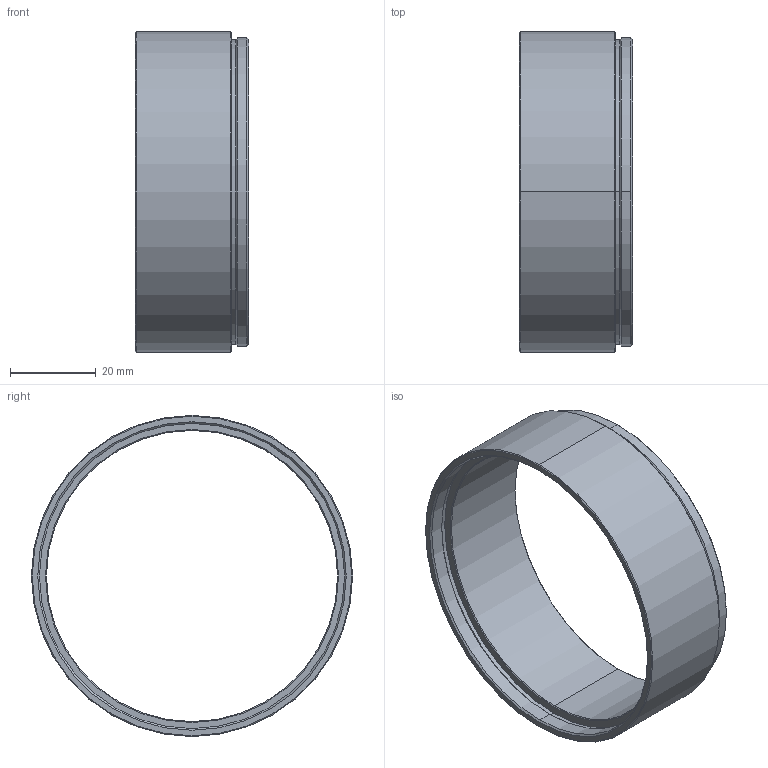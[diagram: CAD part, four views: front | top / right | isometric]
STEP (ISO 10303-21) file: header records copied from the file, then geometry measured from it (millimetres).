
FILE_DESCRIPTION (( 'STEP AP203' ), '1' );
FILE_NAME ('VS-MT-FB9.4.STEP', '2016-11-10T06:22:51', ( 'miura_vst' ), ( '' ), 'SwSTEP 2.0', 'SolidWorks 2016', '' );
FILE_SCHEMA (( 'CONFIG_CONTROL_DESIGN' ));
Length unit declared in the file: millimetre
Products named in the file (1): VS-MT-FB9.4
Bounding box: 26.4 x 75 x 75 mm (x, y, z)
Volume: 17342.6 mm3; surface area: 13480.4 mm2
Topology: 1 solids, 1 shells, 32 faces, 64 edges, 36 vertices
Faces by surface type: cone 16, cylinder 12, plane 4
Entity records: 905 total; most frequent: DIRECTION 166, CARTESIAN_POINT 133, ORIENTED_EDGE 128, AXIS2_PLACEMENT_3D 69, EDGE_CURVE 64, VERTEX_POINT 36, EDGE_LOOP 36, CIRCLE 36
